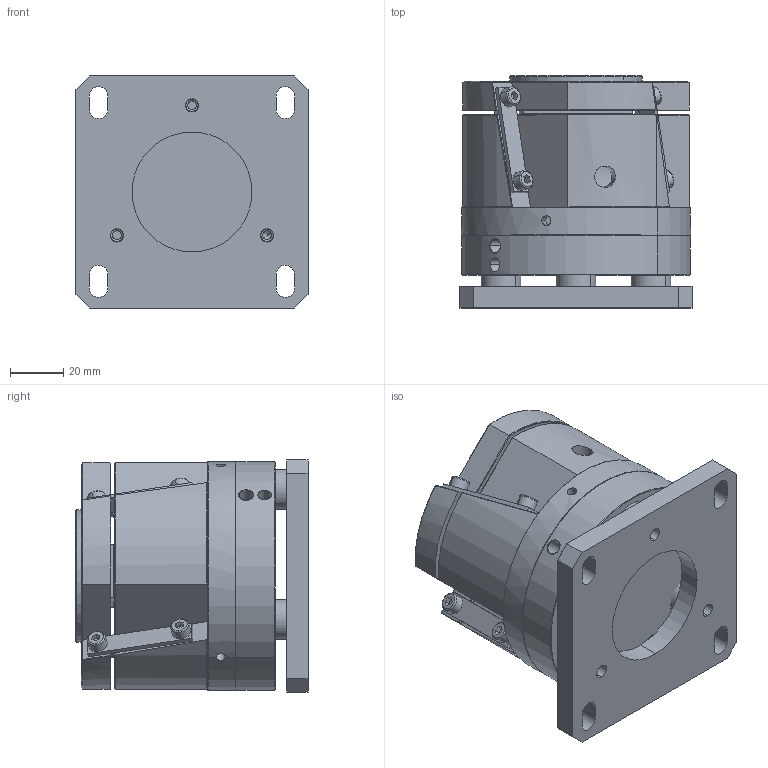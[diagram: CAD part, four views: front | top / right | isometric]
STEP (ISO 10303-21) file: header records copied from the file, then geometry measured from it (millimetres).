
FILE_DESCRIPTION (( 'STEP AP203' ), '1' );
FILE_NAME ('JMG80 菁釱假蚾芞.STEP', '2025-01-31T04:23:09', ( '' ), ( '' ), 'SwSTEP 2.0', 'SolidWorks 2022', '' );
FILE_SCHEMA (( 'CONFIG_CONTROL_DESIGN' ));
Length unit declared in the file: millimetre
Products named in the file (1): JMG80  菁釱假蚾芞
Bounding box: 87 x 87 x 87 mm (x, y, z)
Surface area: 77765.3 mm2 (no closed solid volume)
Topology: 0 solids, 20 shells, 576 faces, 1396 edges, 861 vertices
Faces by surface type: plane 255, cylinder 177, cone 119, torus 16, bspline 9
Entity records: 18974 total; most frequent: CARTESIAN_POINT 5498, DIRECTION 2837, ORIENTED_EDGE 2704, EDGE_CURVE 1358, AXIS2_PLACEMENT_3D 1069, VERTEX_POINT 861, LINE 699, VECTOR 699
